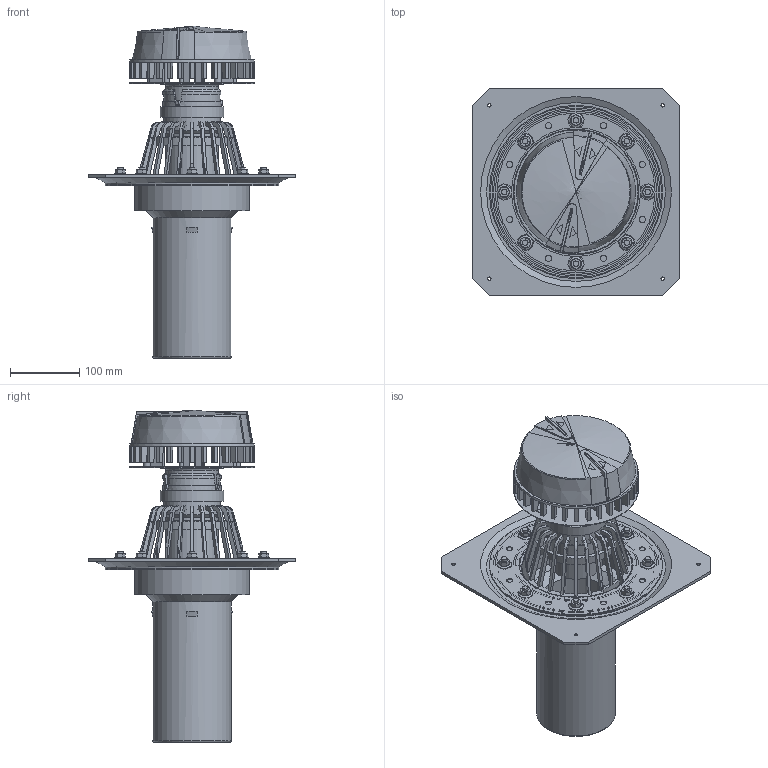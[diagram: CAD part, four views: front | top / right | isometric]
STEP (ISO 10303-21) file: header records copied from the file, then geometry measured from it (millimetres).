
FILE_DESCRIPTION(/* description */ (''),/* implementation_level */ '2;1');
FILE_NAME(/* name */ 'Z:\Geberit\Export\NewStep\PLU_Dachw-einl ART\stp\359013.stp',/* time_stamp */ '2014-04-03T19:03:53+02:00',/* author */ ('bruh'),/* organization */ (''),/* preprocessor_version */ 'ST-DEVELOPER v15.2',/* originating_system */ 'Autodesk Inventor 2014',/* authorisation */ '');
FILE_SCHEMA (('AUTOMOTIVE_DESIGN { 1 0 10303 214 3 1 1 }'));
Length unit declared in the file: millimetre
Products named in the file (12): 814.860.16.0 _Einlauftrichter; 814.863.00.0; 814.308.00.0; 814.862.00.0 Bef Flansch; 814.915.16.0 Laubfang; Sicherungsmutter M8; 359.013.00.1 Dachwassereinlauf DAF d110 7L s ; 861.814.16.0 Anschl Stutzen d75; 861.827.00.0 Einlauftrichter; 861.813.16.0 Funktionshaube Pluvia; 359.034.00.1Dachwassereilauf 19 l, d75; 359013
Bounding box: 300 x 300 x 478.9 mm (x, y, z)
Volume: 1903812.8 mm3; surface area: 929252.1 mm2
Topology: 28 solids, 28 shells, 1388 faces, 3427 edges, 2141 vertices
Faces by surface type: plane 865, cylinder 294, cone 217, bspline 8, torus 4
Full cylindrical faces by diameter (mm): 5 x4, 5.4 x8, 6 x5, 7 x6, 8 x16, 8.2 x8, 8.5 x8, 9 x8, 10 x18, 13 x2, 14 x2, 15 x8, 21 x8, 25 x1, 69.05 x1, 73.2 x1, 75.2 x1, 75.35 x1, 76 x2, 82.3 x1, 84 x1, 85 x1, 90 x2, 91.3 x1, 104.4 x1, 113.4 x1, 157 x1, 166 x1, 167 x1, 171.8 x2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
Entity records: 38746 total; most frequent: CARTESIAN_POINT 7394, DIRECTION 6619, ORIENTED_EDGE 6094, EDGE_CURVE 3018, AXIS2_PLACEMENT_3D 2446, VERTEX_POINT 2009, EDGE_LOOP 1731, LINE 1727
